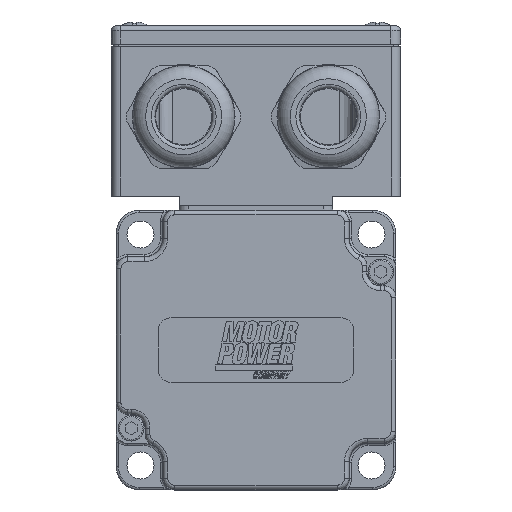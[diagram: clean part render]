
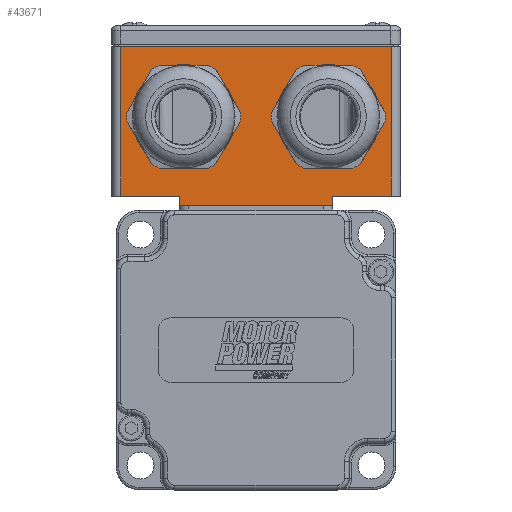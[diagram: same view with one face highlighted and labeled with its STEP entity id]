
A CAD part, front view. The second image highlights one B-rep face of the part: STEP entity #43671.
In plain terms, the highlighted planar face has unit normal (0, -1, 0) as drawn and (-1, 0, 0) by its records, which use the part's own axes.
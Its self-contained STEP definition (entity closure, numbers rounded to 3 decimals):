
#1466=PLANE('',#47272);
#3347=CIRCLE('',#47273,9.865);
#3348=CIRCLE('',#47274,9.865);
#13352=ORIENTED_EDGE('',*,*,#18557,.F.);
#13353=ORIENTED_EDGE('',*,*,#18558,.F.);
#13354=ORIENTED_EDGE('',*,*,#18462,.T.);
#13355=ORIENTED_EDGE('',*,*,#18559,.F.);
#13356=ORIENTED_EDGE('',*,*,#18560,.F.);
#13357=ORIENTED_EDGE('',*,*,#18561,.T.);
#13358=ORIENTED_EDGE('',*,*,#18473,.T.);
#13359=ORIENTED_EDGE('',*,*,#18539,.F.);
#13360=ORIENTED_EDGE('',*,*,#18562,.F.);
#13361=ORIENTED_EDGE('',*,*,#18555,.T.);
#18462=EDGE_CURVE('',#21890,#21888,#24656,.T.);
#18473=EDGE_CURVE('',#21896,#21900,#24662,.T.);
#18539=EDGE_CURVE('',#21962,#21900,#24691,.T.);
#18555=EDGE_CURVE('',#21971,#21890,#24704,.T.);
#18557=EDGE_CURVE('',#21972,#21972,#3347,.T.);
#18558=EDGE_CURVE('',#21973,#21973,#3348,.T.);
#18559=EDGE_CURVE('',#21974,#21888,#24705,.T.);
#18560=EDGE_CURVE('',#21975,#21974,#24706,.T.);
#18561=EDGE_CURVE('',#21975,#21896,#24707,.T.);
#18562=EDGE_CURVE('',#21971,#21962,#24708,.T.);
#21888=VERTEX_POINT('',#73091);
#21890=VERTEX_POINT('',#73094);
#21896=VERTEX_POINT('',#73107);
#21900=VERTEX_POINT('',#73115);
#21962=VERTEX_POINT('',#73250);
#21971=VERTEX_POINT('',#73281);
#21972=VERTEX_POINT('',#73285);
#21973=VERTEX_POINT('',#73287);
#21974=VERTEX_POINT('',#73289);
#21975=VERTEX_POINT('',#73291);
#24656=LINE('',#73093,#27350);
#24662=LINE('',#73116,#27356);
#24691=LINE('',#73249,#27385);
#24704=LINE('',#73280,#27398);
#24705=LINE('',#73288,#27399);
#24706=LINE('',#73290,#27400);
#24707=LINE('',#73292,#27401);
#24708=LINE('',#73293,#27402);
#27350=VECTOR('',#56735,1000.);
#27356=VECTOR('',#56753,1000.);
#27385=VECTOR('',#56868,1000.);
#27398=VECTOR('',#56899,1000.);
#27399=VECTOR('',#56908,1000.);
#27400=VECTOR('',#56909,1000.);
#27401=VECTOR('',#56910,1000.);
#27402=VECTOR('',#56911,1000.);
#29915=EDGE_LOOP('',(#13352));
#29916=EDGE_LOOP('',(#13353));
#29917=EDGE_LOOP('',(#13354,#13355,#13356,#13357,#13358,#13359,#13360,#13361));
#32549=FACE_BOUND('',#29915,.T.);
#32550=FACE_BOUND('',#29916,.T.);
#32551=FACE_BOUND('',#29917,.T.);
#43671=ADVANCED_FACE('',(#32549,#32550,#32551),#1466,.F.);
#47272=AXIS2_PLACEMENT_3D('',#73283,#56902,#56903);
#47273=AXIS2_PLACEMENT_3D('',#73284,#56904,#56905);
#47274=AXIS2_PLACEMENT_3D('',#73286,#56906,#56907);
#56735=DIRECTION('',(0.,-1.,0.));
#56753=DIRECTION('',(0.,-1.,0.));
#56868=DIRECTION('',(0.,0.,-1.));
#56899=DIRECTION('',(0.,0.,-1.));
#56902=DIRECTION('',(1.,0.,0.));
#56903=DIRECTION('',(0.,0.,-1.));
#56904=DIRECTION('',(-1.,0.,0.));
#56905=DIRECTION('',(0.,-1.,0.));
#56906=DIRECTION('',(-1.,0.,0.));
#56907=DIRECTION('',(0.,-1.,0.));
#56908=DIRECTION('',(0.,0.,1.));
#56909=DIRECTION('',(0.,1.,0.));
#56910=DIRECTION('',(0.,0.,1.));
#56911=DIRECTION('',(0.,-1.,0.));
#73091=CARTESIAN_POINT('',(-37.5,16.5,0.));
#73093=CARTESIAN_POINT('',(-37.5,29.,0.));
#73094=CARTESIAN_POINT('',(-37.5,29.,0.));
#73107=CARTESIAN_POINT('',(-37.5,-16.5,0.));
#73115=CARTESIAN_POINT('',(-37.5,-29.,0.));
#73116=CARTESIAN_POINT('',(-37.5,29.,0.));
#73249=CARTESIAN_POINT('',(-37.5,-29.,32.));
#73250=CARTESIAN_POINT('',(-37.5,-29.,32.));
#73280=CARTESIAN_POINT('',(-37.5,29.,32.));
#73281=CARTESIAN_POINT('',(-37.5,29.,32.));
#73283=CARTESIAN_POINT('',(-37.5,29.,32.));
#73284=CARTESIAN_POINT('',(-37.5,15.5,17.));
#73285=CARTESIAN_POINT('',(-37.5,5.635,17.));
#73286=CARTESIAN_POINT('',(-37.5,-15.5,17.));
#73287=CARTESIAN_POINT('',(-37.5,-25.365,17.));
#73288=CARTESIAN_POINT('',(-37.5,16.5,-2.));
#73289=CARTESIAN_POINT('',(-37.5,16.5,-2.));
#73290=CARTESIAN_POINT('',(-37.5,-16.5,-2.));
#73291=CARTESIAN_POINT('',(-37.5,-16.5,-2.));
#73292=CARTESIAN_POINT('',(-37.5,-16.5,-2.));
#73293=CARTESIAN_POINT('',(-37.5,29.,32.));
